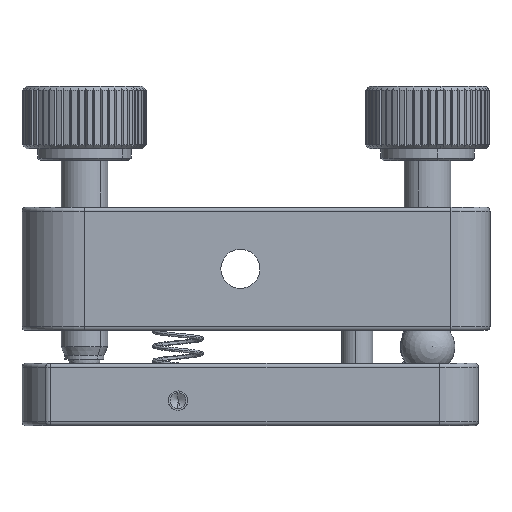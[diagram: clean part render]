
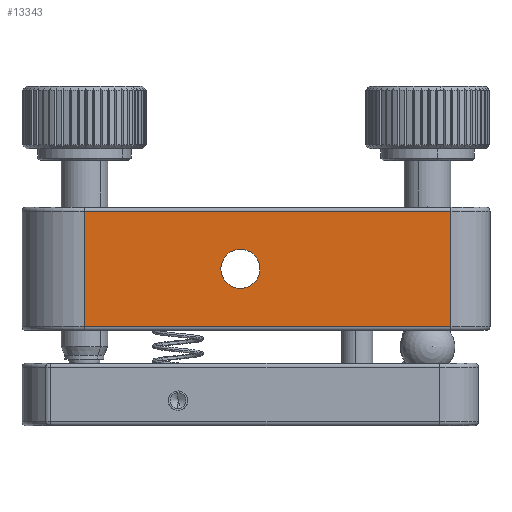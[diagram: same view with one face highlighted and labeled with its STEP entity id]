
A CAD part, left-side view. The second image highlights one B-rep face of the part: STEP entity #13343.
In plain terms, the highlighted planar face has unit normal (-1, 0, 0).
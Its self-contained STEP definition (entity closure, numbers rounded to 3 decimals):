
#39 = CARTESIAN_POINT ( 'NONE',  ( 24.652, 73.266, -43.489 ) ) ;
#155 = CARTESIAN_POINT ( 'NONE',  ( 24.652, 26.266, -42.989 ) ) ;
#556 = CIRCLE ( 'NONE', #20604, 2.5 ) ;
#1663 = EDGE_CURVE ( 'NONE', #22490, #29551, #23238, .T. ) ;
#1889 = EDGE_CURVE ( 'NONE', #35031, #21067, #7043, .T. ) ;
#2332 = VECTOR ( 'NONE', #15687, 1000. ) ;
#4165 = CARTESIAN_POINT ( 'NONE',  ( 24.652, 53.266, -48.389 ) ) ;
#4540 = VERTEX_POINT ( 'NONE', #22806 ) ;
#4730 = CARTESIAN_POINT ( 'NONE',  ( 24.652, 53.266, -58.289 ) ) ;
#7043 = CIRCLE ( 'NONE', #27078, 2.5 ) ;
#7435 = DIRECTION ( 'NONE',  ( 0., 0., 1. ) ) ;
#8154 = ORIENTED_EDGE ( 'NONE', *, *, #1889, .F. ) ;
#8833 = DIRECTION ( 'NONE',  ( -1., 0., 0. ) ) ;
#8968 = DIRECTION ( 'NONE',  ( -1., 0., 0. ) ) ;
#8975 = ORIENTED_EDGE ( 'NONE', *, *, #19900, .F. ) ;
#9619 = DIRECTION ( 'NONE',  ( 0., 0., -1. ) ) ;
#9780 = EDGE_LOOP ( 'NONE', ( #18400, #21596, #8975, #23766 ) ) ;
#9963 = CARTESIAN_POINT ( 'NONE',  ( 24.652, 53.266, -53.389 ) ) ;
#10141 = PLANE ( 'NONE',  #20320 ) ;
#10183 = DIRECTION ( 'NONE',  ( 0., 1., 0. ) ) ;
#10509 = CARTESIAN_POINT ( 'NONE',  ( 24.652, 73.266, -58.289 ) ) ;
#11114 = DIRECTION ( 'NONE',  ( 0., 0., -1. ) ) ;
#13267 = VECTOR ( 'NONE', #11114, 1000. ) ;
#13343 = ADVANCED_FACE ( 'NONE', ( #23759, #34666 ), #10141, .F. ) ;
#14165 = EDGE_CURVE ( 'NONE', #4540, #22490, #23804, .T. ) ;
#15687 = DIRECTION ( 'NONE',  ( 0., -1., 0. ) ) ;
#15702 = EDGE_LOOP ( 'NONE', ( #8154, #23510 ) ) ;
#17796 = VECTOR ( 'NONE', #9619, 1000. ) ;
#18400 = ORIENTED_EDGE ( 'NONE', *, *, #1663, .T. ) ;
#19769 = DIRECTION ( 'NONE',  ( 0., 0., -1. ) ) ;
#19900 = EDGE_CURVE ( 'NONE', #4540, #22658, #24718, .T. ) ;
#19904 = DIRECTION ( 'NONE',  ( 0., 0., -1. ) ) ;
#20112 = CARTESIAN_POINT ( 'NONE',  ( 24.652, 26.266, -58.289 ) ) ;
#20320 = AXIS2_PLACEMENT_3D ( 'NONE', #21071, #31978, #7435 ) ;
#20604 = AXIS2_PLACEMENT_3D ( 'NONE', #33492, #8968, #19904 ) ;
#21067 = VERTEX_POINT ( 'NONE', #4165 ) ;
#21071 = CARTESIAN_POINT ( 'NONE',  ( 24.652, 53.266, -42.989 ) ) ;
#21596 = ORIENTED_EDGE ( 'NONE', *, *, #32057, .T. ) ;
#22490 = VERTEX_POINT ( 'NONE', #39 ) ;
#22658 = VERTEX_POINT ( 'NONE', #20112 ) ;
#22806 = CARTESIAN_POINT ( 'NONE',  ( 24.652, 26.266, -43.489 ) ) ;
#23238 = LINE ( 'NONE', #34148, #17796 ) ;
#23510 = ORIENTED_EDGE ( 'NONE', *, *, #27470, .F. ) ;
#23759 = FACE_BOUND ( 'NONE', #15702, .T. ) ;
#23766 = ORIENTED_EDGE ( 'NONE', *, *, #14165, .T. ) ;
#23804 = LINE ( 'NONE', #34717, #27931 ) ;
#24718 = LINE ( 'NONE', #155, #13267 ) ;
#27078 = AXIS2_PLACEMENT_3D ( 'NONE', #33353, #8833, #19769 ) ;
#27470 = EDGE_CURVE ( 'NONE', #21067, #35031, #556, .T. ) ;
#27931 = VECTOR ( 'NONE', #10183, 1000. ) ;
#29271 = LINE ( 'NONE', #4730, #2332 ) ;
#29551 = VERTEX_POINT ( 'NONE', #10509 ) ;
#31978 = DIRECTION ( 'NONE',  ( 1., 0., 0. ) ) ;
#32057 = EDGE_CURVE ( 'NONE', #29551, #22658, #29271, .T. ) ;
#33353 = CARTESIAN_POINT ( 'NONE',  ( 24.652, 53.266, -50.889 ) ) ;
#33492 = CARTESIAN_POINT ( 'NONE',  ( 24.652, 53.266, -50.889 ) ) ;
#34148 = CARTESIAN_POINT ( 'NONE',  ( 24.652, 73.266, -42.989 ) ) ;
#34666 = FACE_OUTER_BOUND ( 'NONE', #9780, .T. ) ;
#34717 = CARTESIAN_POINT ( 'NONE',  ( 24.652, 73.266, -43.489 ) ) ;
#35031 = VERTEX_POINT ( 'NONE', #9963 ) ;
